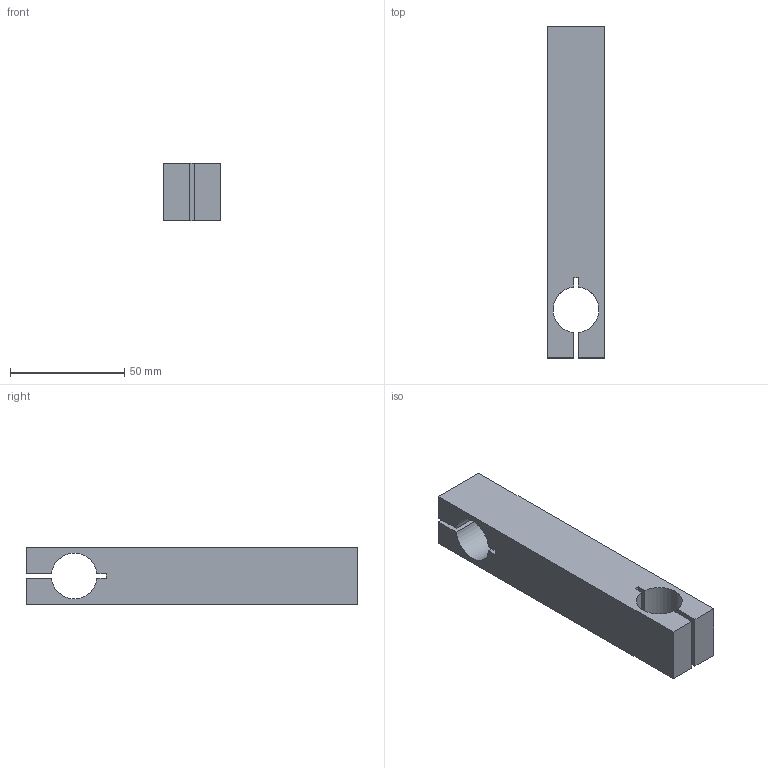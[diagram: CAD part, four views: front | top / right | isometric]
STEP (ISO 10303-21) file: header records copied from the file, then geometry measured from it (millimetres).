
FILE_DESCRIPTION(/* description */ ('Supporto registrabile colonna Minilock'),/* implementation_level */ '2;1');
FILE_NAME(/* name */ 'Z:\70_UFFICIO_TECNICO\A_Componenti_Meccanici\01_Disegni_Step-Iges-Rhino\SEMPLIFICATI\MKT010145.stp',/* time_stamp */ '2019-05-21T11:13:56+02:00',/* author */ ('Utente'),/* organization */ (''),/* preprocessor_version */ 'ST-DEVELOPER v16.13',/* originating_system */ 'Autodesk Inventor 2018',/* authorisation */ '');
FILE_SCHEMA (('AUTOMOTIVE_DESIGN { 1 0 10303 214 3 1 1 }'));
Length unit declared in the file: millimetre
Products named in the file (1): MKT010145
Bounding box: 25 x 145 x 25 mm (x, y, z)
Volume: 73413.7 mm3; surface area: 18824.4 mm2
Topology: 1 solids, 1 shells, 22 faces, 60 edges, 40 vertices
Faces by surface type: plane 18, cylinder 4
Entity records: 738 total; most frequent: CARTESIAN_POINT 123, ORIENTED_EDGE 120, DIRECTION 114, EDGE_CURVE 60, LINE 52, VECTOR 52, VERTEX_POINT 40, AXIS2_PLACEMENT_3D 31
